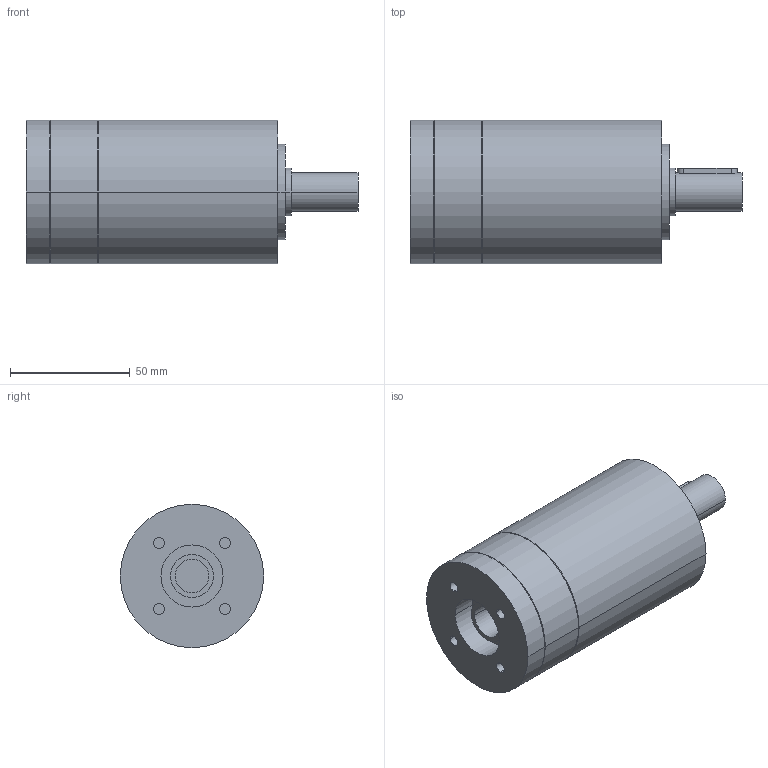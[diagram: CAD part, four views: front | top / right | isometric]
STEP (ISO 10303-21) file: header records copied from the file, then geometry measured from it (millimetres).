
FILE_DESCRIPTION(('CoCreate Modeling STEP Export'),'2;1');
FILE_NAME('GPR75_ig-9-12-16-20-24-30-36_16_B14_14_P10.stp','2014-08-25T16:45:13',(''),(''),'CoCreate Modeling STEP processor for AP214 (Solid Model)','CoCreate Modeling 16.00C 25-Feb-2009 (C) Parametric Technology GmbH','');
FILE_SCHEMA(('AUTOMOTIVE_DESIGN { 1 0 10303 214 1 1 1 1 }'));
Length unit declared in the file: millimetre
Products named in the file (2): GPR75_ig-9-12-16-20-24-30-36_16_B14_14_P10
Assembly tree (1 placements, depth 2):
  GPR75_ig-9-12-16-20-24-30-36_16_B14_14_P10
    GPR75_ig-9-12-16-20-24-30-36_16_B14_14_P10
Bounding box: 138.9 x 60 x 60 mm (x, y, z)
Volume: 297766.3 mm3; surface area: 31839 mm2
Topology: 1 solids, 1 shells, 77 faces, 196 edges, 140 vertices
Faces by surface type: cylinder 46, plane 25, cone 6
Entity records: 1966 total; most frequent: ORIENTED_EDGE 388, CARTESIAN_POINT 360, DIRECTION 254, EDGE_CURVE 194, VERTEX_POINT 140, AXIS2_PLACEMENT_3D 98, EDGE_LOOP 98, FACE_OUTER_BOUND 77
